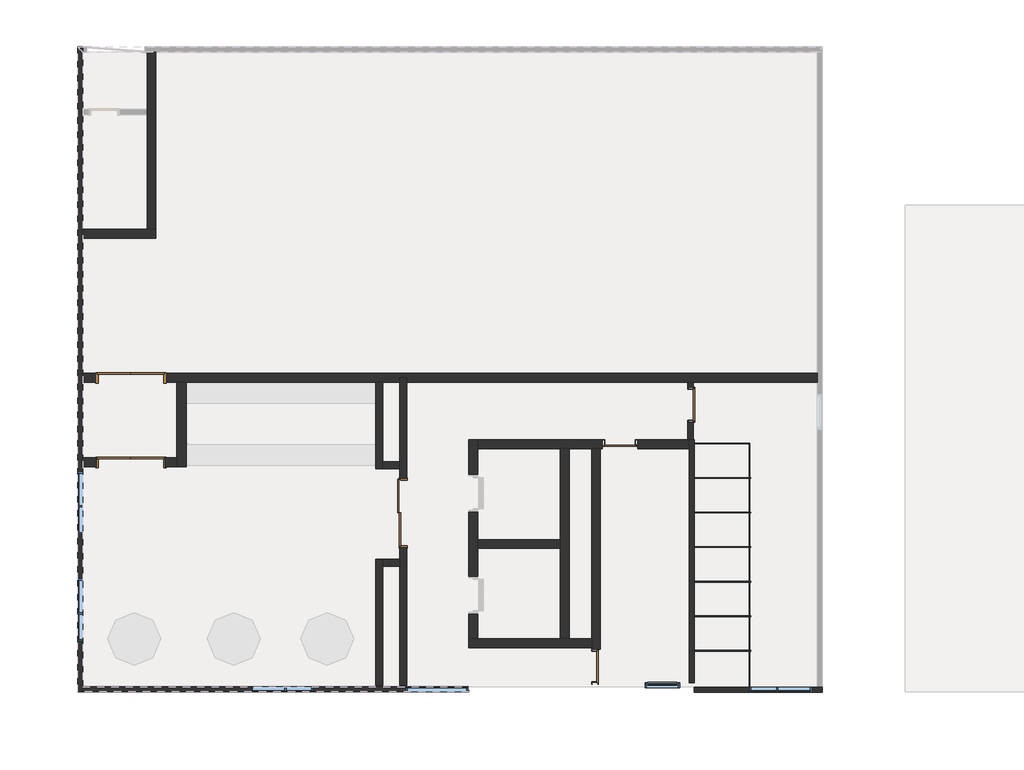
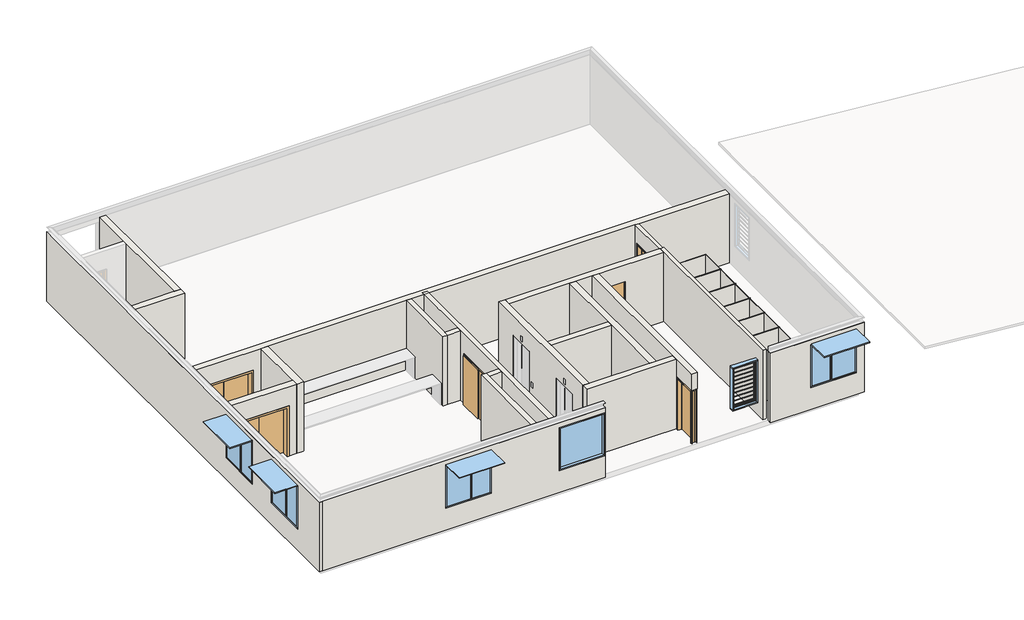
# One storey, part 1 of 2: 29 walls, 6 doors, 6 windows.
"""IFC4 building model written with IfcOpenShell, lengths in millimetres."""

from ifc_helpers import new_model, si_unit, frame, origin, place, context, project, spatial, polyline, outline, extrude, faceted_brep, transform, mapped, element, save
from components import swing_double_metal_frame_double_2040_x_970x2_2b0cb67a, swing_double_metal_frame_double_2040_x_970x2_da7648d6, swing_metal_frame_single_dor_f6efc24d, swing_metal_frame_single_dor_3a6922c5, window_bottom_hung_window_bottom_hung_09912109, window_bottom_hung_window_bottom_hung_36dcd069, window_fixed_1800mm_wide_217cd763, window_louvre_window_louvre_92f3ddc7

model = new_model("IFC4")

# Units and contexts
model_context = context("Model", 3, world=origin())
ifc_project = project(units=[si_unit("LENGTHUNIT", "METRE", prefix="MILLI")], contexts=[model_context])

# Site, building, storey
site = spatial("IfcSite", under=ifc_project)
building = spatial("IfcBuilding", under=site)
storey = spatial("IfcBuildingStorey", under=building, Name="5階", Elevation=42300.0)

# Doors
placement = place(None, origin())
swing_double_metal_frame_double_2040_x_970x2_shape = swing_double_metal_frame_double_2040_x_970x2_2b0cb67a(model_context)
element("IfcDoor", 1, ObjectType="Swing_Double : Metal Frame Double - 2040 x 970x2", at=placement, inside=storey, context=model_context, shape_type="MappedRepresentation", body=[
    mapped(swing_double_metal_frame_double_2040_x_970x2_shape, transform((4123.6057353, 6685.0, 42300.0), x_axis=(1.0, 0.0, 0.0), y_axis=(0.0, 1.0, 0.0), z_axis=(0.0, 0.0, 1.0))),
])
element("IfcDoor", 2, ObjectType="Swing_Double : Metal Frame Double - 2040 x 970x2", at=placement, inside=storey, context=model_context, shape_type="MappedRepresentation", body=[
    mapped(swing_double_metal_frame_double_2040_x_970x2_shape, transform((4123.6057353, 9131.2680774, 42300.0), x_axis=(1.0, 0.0, 0.0), y_axis=(0.0, 1.0, 0.0), z_axis=(0.0, 0.0, 1.0))),
])
swing_double_metal_frame_double_2040_x_970x2_2_shape = swing_double_metal_frame_double_2040_x_970x2_da7648d6(model_context)
element("IfcDoor", 3, ObjectType="Swing_Double : Metal Frame Double - 2040 x 970x2", at=placement, inside=storey, context=model_context, shape_type="MappedRepresentation", body=[
    mapped(swing_double_metal_frame_double_2040_x_970x2_2_shape, transform((11794.6062665, 5007.7678956, 42300.0), x_axis=(0.0, -1.0, 0.0), y_axis=(1.0, 0.0, 0.0), z_axis=(0.0, 0.0, 1.0))),
])
swing_metal_frame_single_dor_shape = swing_metal_frame_single_dor_f6efc24d(model_context)
element("IfcDoor", 4, ObjectType="Swing_Metal Frame_Single_DOR : 2140h x 920 (2210x1010 BLK)", at=placement, inside=storey, context=model_context, shape_type="MappedRepresentation", body=[
    mapped(swing_metal_frame_single_dor_shape, transform((17369.6062665, 770.0, 42300.0), x_axis=(0.0, 1.0, 0.0), y_axis=(-1.0, 0.0, 0.0), z_axis=(0.0, 0.0, 1.0))),
])
element("IfcDoor", 5, ObjectType="Swing_Metal Frame_Single_DOR : 2140h x 920 (2210x1010 BLK)", at=placement, inside=storey, context=model_context, shape_type="MappedRepresentation", body=[
    mapped(swing_metal_frame_single_dor_shape, transform((18069.6062665, 7210.0, 42300.0), x_axis=(1.0, 0.0, 0.0), y_axis=(0.0, 1.0, 0.0), z_axis=(0.0, 0.0, 1.0))),
])
swing_metal_frame_single_dor_2_shape = swing_metal_frame_single_dor_3a6922c5(model_context)
element("IfcDoor", 6, ObjectType="Swing_Metal Frame_Single_DOR : 2140h x 920 (2210x1010 BLK)", at=placement, inside=storey, context=model_context, shape_type="MappedRepresentation", body=[
    mapped(swing_metal_frame_single_dor_2_shape, transform((20109.6062665, 8351.2680774, 42300.0), x_axis=(0.0, -1.0, 0.0), y_axis=(1.0, 0.0, 0.0), z_axis=(0.0, 0.0, 1.0))),
])

# Walls
element("IfcWall", 7, ObjectType="Whte Paint Finish", at=placement, inside=storey, context=model_context, shape_type="Brep", body=[
    faceted_brep([(20221.1062665, 309.0898177, 42300.0), (20221.1062665, 1221.0, 42300.0), (20221.1062665, 1239.0, 42300.0), (20221.1062665, 2221.0, 42300.0), (20221.1062665, 2239.0, 42300.0), (20221.1062665, 3221.0, 42300.0), (20221.1062665, 3239.0, 42300.0), (20221.1062665, 4221.0, 42300.0), (20221.1062665, 4239.0, 42300.0), (20221.1062665, 5221.0, 42300.0), (20221.1062665, 5239.0, 42300.0), (20221.1062665, 6221.0, 42300.0), (20221.1062665, 6239.0, 42300.0), (20221.1062665, 7335.0, 42300.0), (20221.1062665, 7335.0, 45200.0), (20221.1062665, 309.0898177, 45200.0), (20071.1062665, 309.0898177, 42300.0), (20071.1062665, 309.0898177, 45200.0), (20071.1062665, 7085.0, 45200.0), (20071.1062665, 7335.0, 45200.0), (20071.1062665, 7335.0, 42300.0), (20071.1062665, 7085.0, 42300.0), (20184.6062665, 7335.0, 42300.0), (20184.6062665, 7335.0, 45200.0)], [[[0, 1, 2, 3, 4, 5, 6, 7, 8, 9, 10, 11, 12, 13, 14, 15]], [[16, 17, 18, 19, 20, 21]], [[13, 12, 11, 10, 9, 8, 7, 6, 5, 4, 3, 2, 1, 0, 16, 21, 20, 22]], [[15, 14, 23, 19, 18, 17]], [[13, 22, 20, 19, 23, 14]], [[0, 15, 17, 16]]]),
])
element("IfcWall", 8, ObjectType="Whte Paint Finish", at=placement, inside=storey, context=model_context, shape_type="Brep", body=[
    faceted_brep([(20184.6062665, 8996.2680774, 45200.0), (20184.6062665, 7335.0, 45200.0), (20184.6062665, 7335.0, 42300.0), (20184.6062665, 7841.2680774, 42300.0), (20184.6062665, 7841.2680774, 44510.0), (20184.6062665, 8861.2680774, 44510.0), (20184.6062665, 8861.2680774, 42300.0), (20184.6062665, 8996.2680774, 42300.0), (20034.6062665, 7335.0, 45200.0), (20034.6062665, 8996.2680774, 45200.0), (20034.6062665, 8996.2680774, 42300.0), (20034.6062665, 8861.2680774, 42300.0), (20034.6062665, 8861.2680774, 44510.0), (20034.6062665, 7841.2680774, 44510.0), (20034.6062665, 7841.2680774, 42300.0), (20034.6062665, 7335.0, 42300.0), (20071.1062665, 7335.0, 42300.0), (20071.1062665, 7335.0, 45200.0)], [[[0, 1, 2, 3, 4, 5, 6, 7]], [[8, 9, 10, 11, 12, 13, 14, 15]], [[10, 7, 6, 11]], [[2, 16, 15, 14, 3]], [[1, 0, 9, 8, 17]], [[15, 16, 2, 1, 17, 8]], [[0, 7, 10, 9]], [[13, 4, 3, 14]], [[4, 13, 12, 5]], [[5, 12, 11, 6]]]),
])
element("IfcWall", 9, ObjectType="Brickwork_Double_270mm", at=placement, inside=storey, context=model_context, shape_type="Brep", body=[
    faceted_brep([(2519.6057353, 8996.2680774, 42300.0), (2912.1057353, 8996.2680774, 42300.0), (2912.1057353, 8996.2680774, 44390.0), (4912.1057353, 8996.2680774, 44390.0), (4912.1057353, 8996.2680774, 42300.0), (5244.6057353, 8996.2680774, 42300.0), (5514.6057353, 8996.2680774, 42300.0), (20034.6062665, 8996.2680774, 42300.0), (20184.6062665, 8996.2680774, 42300.0), (23773.6171203, 8996.2680774, 42300.0), (23773.6171203, 8996.2680774, 45200.0), (20184.6062665, 8996.2680774, 45200.0), (20034.6062665, 8996.2680774, 45200.0), (5514.6057353, 8996.2680774, 45200.0), (5244.6057353, 8996.2680774, 45200.0), (2519.6057353, 8996.2680774, 45200.0), (2912.1057353, 9266.2680774, 44390.0), (2912.1057353, 9266.2680774, 42300.0), (2519.6057353, 9266.2680774, 42300.0), (2519.6057353, 9266.2680774, 45200.0), (23773.6171203, 9266.2680774, 45200.0), (23773.6171203, 9266.2680774, 42300.0), (4912.1057353, 9266.2680774, 42300.0), (4912.1057353, 9266.2680774, 44390.0)], [[[0, 1, 2, 3, 4, 5, 6, 7, 8, 9, 10, 11, 12, 13, 14, 15]], [[16, 17, 18, 19, 20, 21, 22, 23]], [[22, 21, 9, 8, 7, 6, 5, 4]], [[18, 17, 1, 0]], [[15, 14, 13, 12, 11, 10, 20, 19]], [[10, 9, 21, 20]], [[0, 15, 19, 18]], [[2, 1, 17, 16]], [[3, 2, 16, 23]], [[4, 3, 23, 22]]]),
])
element("IfcWall", 10, ObjectType="Whte Paint Finish", at=placement, inside=storey, context=model_context, shape_type="SweptSolid", body=[
    extrude(outline(polyline([(42300.0, 2519.6057353), (42300.0, 13694.6062665), (45200.0, 13694.6062665), (45200.0, 2519.6057353), (42300.0, 2519.6057353)]), holes=[polyline([(43200.0, 11869.6062665), (45000.0, 11869.6062665), (45000.0, 13669.6062665), (43200.0, 13669.6062665), (43200.0, 11869.6062665)]), polyline([(43200.0, 9189.6062665), (43200.0, 7389.6062665), (45000.0, 7389.6062665), (45000.0, 9189.6062665), (43200.0, 9189.6062665)])]), frame((0.0, 39.0898177, 0.0), z_axis=(0.0, 1.0, 0.0), x_axis=(0.0, 0.0, 1.0)), (0.0, 0.0, 1.0), 150.0),
])
element("IfcWall", 11, ObjectType="Whte Paint Finish", at=placement, inside=storey, context=model_context, shape_type="Brep", body=[
    faceted_brep([(2519.6057353, 39.0898177, 45200.0), (2519.6057353, 189.0898177, 45200.0), (2519.6057353, 6550.0, 45200.0), (2519.6057353, 6820.0, 45200.0), (2519.6057353, 8996.2680774, 45200.0), (2519.6057353, 9266.2680774, 45200.0), (2519.6057353, 13164.7819979, 45200.0), (2519.6057353, 13434.7819979, 45200.0), (2519.6057353, 16749.7819979, 45200.0), (2519.6057353, 16899.7819979, 45200.0), (2519.6057353, 18560.0, 45200.0), (2519.6057353, 18710.0, 45200.0), (2369.6057353, 18710.0, 45200.0), (2369.6057353, 39.0898177, 45200.0), (2519.6057353, 39.0898177, 42300.0), (2519.6057353, 189.0898177, 42300.0), (2519.6057353, 6550.0, 42300.0), (2519.6057353, 6820.0, 42300.0), (2519.6057353, 8996.2680774, 42300.0), (2519.6057353, 9266.2680774, 42300.0), (2519.6057353, 13164.7819979, 42300.0), (2519.6057353, 13434.7819979, 42300.0), (2519.6057353, 16749.7819979, 42300.0), (2519.6057353, 16899.7819979, 42300.0), (2519.6057353, 18560.0, 42300.0), (2519.6057353, 18710.0, 42300.0), (2519.6057353, 1514.0898177, 43200.0), (2519.6057353, 1514.0898177, 45000.0), (2519.6057353, 3314.0898177, 45000.0), (2519.6057353, 3314.0898177, 43200.0), (2519.6057353, 4614.0898177, 43200.0), (2519.6057353, 4614.0898177, 45000.0), (2519.6057353, 6414.0898177, 45000.0), (2519.6057353, 6414.0898177, 43200.0), (2369.6057353, 39.0898177, 42300.0), (2369.6057353, 18710.0, 42300.0), (2369.6057353, 1514.0898177, 43200.0), (2369.6057353, 3314.0898177, 43200.0), (2369.6057353, 3314.0898177, 45000.0), (2369.6057353, 1514.0898177, 45000.0), (2369.6057353, 4614.0898177, 43200.0), (2369.6057353, 6414.0898177, 43200.0), (2369.6057353, 6414.0898177, 45000.0), (2369.6057353, 4614.0898177, 45000.0)], [[[0, 1, 2, 3, 4, 5, 6, 7, 8, 9, 10, 11, 12, 13]], [[14, 15, 16, 17, 18, 19, 20, 21, 22, 23, 24, 25, 11, 10, 9, 8, 7, 6, 5, 4, 3, 2, 1, 0], [26, 27, 28, 29], [30, 31, 32, 33]], [[34, 13, 12, 35], [36, 37, 38, 39], [40, 41, 42, 43]], [[25, 24, 23, 22, 21, 20, 19, 18, 17, 16, 15, 14, 34, 35]], [[14, 0, 13, 34]], [[11, 25, 35, 12]], [[27, 26, 36, 39]], [[28, 27, 39, 38]], [[29, 28, 38, 37]], [[26, 29, 37, 36]], [[31, 30, 40, 43]], [[32, 31, 43, 42]], [[33, 32, 42, 41]], [[30, 33, 41, 40]]]),
])
element("IfcWall", 12, ObjectType="Whte Paint Finish", at=placement, inside=storey, context=model_context, shape_type="Brep", body=[
    faceted_brep([(20219.6062665, 30.0, 45200.0), (23923.6171203, 30.0, 45200.0), (23923.6171203, 180.0, 45200.0), (23773.6171203, 180.0, 45200.0), (20219.6062665, 180.0, 45200.0), (20219.6062665, 30.0, 42300.0), (23923.6171203, 30.0, 42300.0), (21819.6062665, 30.0, 43200.0), (21819.6062665, 30.0, 45000.0), (23619.6062665, 30.0, 45000.0), (23619.6062665, 30.0, 43200.0), (20219.6062665, 180.0, 42300.0), (23923.6171203, 180.0, 42300.0), (23773.6171203, 180.0, 42300.0), (21828.6062665, 180.0, 42300.0), (21810.6062665, 180.0, 42300.0), (21819.6062665, 180.0, 43200.0), (23619.6062665, 180.0, 43200.0), (23619.6062665, 180.0, 45000.0), (21819.6062665, 180.0, 45000.0)], [[[0, 1, 2, 3, 4]], [[5, 6, 1, 0], [7, 8, 9, 10]], [[11, 4, 3, 2, 12, 13, 14, 15], [16, 17, 18, 19]], [[6, 5, 11, 15, 14, 13, 12]], [[5, 0, 4, 11]], [[1, 6, 12, 2]], [[7, 10, 17, 16]], [[10, 9, 18, 17]], [[9, 8, 19, 18]], [[8, 7, 16, 19]]]),
])
element("IfcWall", 13, ObjectType="Brickwork_Double_270mm", at=placement, inside=storey, context=model_context, shape_type="Brep", body=[
    faceted_brep([(5244.6057353, 8996.2680774, 42300.0), (5244.6057353, 6820.0, 42300.0), (5244.6057353, 6550.0, 42300.0), (5244.6057353, 6550.0, 45200.0), (5244.6057353, 6820.0, 45200.0), (5244.6057353, 8996.2680774, 45200.0), (5514.6057353, 8996.2680774, 42300.0), (5514.6057353, 8996.2680774, 45200.0), (5514.6057353, 6550.0, 45200.0), (5514.6057353, 6550.0, 42300.0)], [[[0, 1, 2, 3, 4, 5]], [[6, 7, 8, 9]], [[2, 1, 0, 6, 9]], [[5, 4, 3, 8, 7]], [[0, 5, 7, 6]], [[3, 2, 9, 8]]]),
])
element("IfcWall", 14, ObjectType="Brickwork_Double_270mm", at=placement, inside=storey, context=model_context, shape_type="SweptSolid", body=[
    extrude(outline(polyline([(42300.0, 2519.6057353), (42300.0, 2912.1057353), (44390.0, 2912.1057353), (44390.0, 4912.1057353), (42300.0, 4912.1057353), (42300.0, 5244.6057353), (45200.0, 5244.6057353), (45200.0, 2519.6057353), (42300.0, 2519.6057353)])), frame((0.0, 6550.0, 0.0), z_axis=(0.0, 1.0, 0.0), x_axis=(0.0, 0.0, 1.0)), (0.0, 0.0, 1.0), 270.0),
])
element("IfcWall", 15, ObjectType="Brickwork_Double_270mm", at=placement, inside=storey, context=model_context, shape_type="Brep", body=[
    faceted_brep([(2519.6057353, 13164.7819979, 42300.0), (4634.6057353, 13164.7819979, 42300.0), (4634.6057353, 13164.7819979, 45200.0), (2519.6057353, 13164.7819979, 45200.0), (2519.6057353, 13434.7819979, 42300.0), (2519.6057353, 13434.7819979, 45200.0), (4384.6057353, 13434.7819979, 45200.0), (4634.6057353, 13434.7819979, 45200.0), (4634.6057353, 13434.7819979, 42300.0), (4384.6057353, 13434.7819979, 42300.0)], [[[0, 1, 2, 3]], [[4, 5, 6, 7, 8, 9]], [[1, 0, 4, 9, 8]], [[3, 2, 7, 6, 5]], [[2, 1, 8, 7]], [[0, 3, 5, 4]]]),
])
element("IfcWall", 16, ObjectType="A2 - Acoustic Type 2", at=placement, inside=storey, context=model_context, shape_type="SweptSolid", body=[
    extrude(outline(polyline([(4634.6057353, 18560.0), (4634.6057353, 13434.7819979), (4384.6057353, 13434.7819979), (4384.6057353, 18560.0), (4634.6057353, 18560.0)])), frame((0.0, 0.0, 42300.0), z_axis=(0.0, 0.0, 1.0), x_axis=(1.0, 0.0, 0.0)), (0.0, 0.0, 1.0), 2900.0),
])
element("IfcWall", 17, ObjectType="C1 - Concrete Type 2", at=placement, inside=storey, context=model_context, shape_type="SweptSolid", body=[
    extrude(outline(polyline([(11694.6062665, 6497.0008144), (11194.6062665, 6497.0008144), (11194.6062665, 6697.0008144), (11694.6062665, 6697.0008144), (11694.6062665, 6497.0008144)])), frame((0.0, 0.0, 42300.0), z_axis=(0.0, 0.0, 1.0), x_axis=(1.0, 0.0, 0.0)), (0.0, 0.0, 1.0), 2900.0),
])
element("IfcWall", 18, ObjectType="C1 - Concrete Type 2", at=placement, inside=storey, context=model_context, shape_type="Brep", body=[
    faceted_brep([(11194.6062665, 6497.0008144, 42300.0), (11194.6062665, 6697.0008144, 42300.0), (11194.6062665, 8997.0008144, 42300.0), (11194.6062665, 8997.0008144, 45200.0), (11194.6062665, 6697.0008144, 45200.0), (11194.6062665, 6497.0008144, 45200.0), (10994.6062665, 6497.0008144, 42300.0), (10994.6062665, 6497.0008144, 45200.0), (10994.6062665, 8997.0008144, 45200.0), (10994.6062665, 8997.0008144, 42300.0)], [[[0, 1, 2, 3, 4, 5]], [[6, 7, 8, 9]], [[2, 1, 0, 6, 9]], [[3, 2, 9, 8]], [[5, 4, 3, 8, 7]], [[0, 5, 7, 6]]]),
])
element("IfcWall", 19, ObjectType="C1 - Concrete Type 2", at=placement, inside=storey, context=model_context, shape_type="SweptSolid", body=[
    extrude(outline(polyline([(11694.6062665, 3673.0), (11194.6062665, 3673.0), (11194.6062665, 3873.0), (11694.6062665, 3873.0), (11694.6062665, 3673.0)])), frame((0.0, 0.0, 42300.0), z_axis=(0.0, 0.0, 1.0), x_axis=(1.0, 0.0, 0.0)), (0.0, 0.0, 1.0), 2900.0),
])
element("IfcWall", 20, ObjectType="C1 - Concrete Type 2", at=placement, inside=storey, context=model_context, shape_type="Brep", body=[
    faceted_brep([(11194.6062665, 235.0, 42300.0), (11194.6062665, 3673.0, 42300.0), (11194.6062665, 3873.0, 42300.0), (11194.6062665, 3873.0, 45200.0), (11194.6062665, 3673.0, 45200.0), (11194.6062665, 235.0, 45200.0), (10994.6062665, 235.0, 42300.0), (10994.6062665, 235.0, 45200.0), (10994.6062665, 3873.0, 45200.0), (10994.6062665, 3873.0, 42300.0)], [[[0, 1, 2, 3, 4, 5]], [[6, 7, 8, 9]], [[2, 1, 0, 6, 9]], [[3, 2, 9, 8]], [[5, 4, 3, 8, 7]], [[0, 5, 7, 6]]]),
])
element("IfcWall", 21, ObjectType="C1 - Concrete Type 2", at=placement, inside=storey, context=model_context, shape_type="Brep", body=[
    faceted_brep([(11894.6062665, 9131.2680774, 42300.0), (11894.6062665, 9131.2680774, 45200.0), (11894.6062665, 235.0, 45200.0), (11894.6062665, 235.0, 42300.0), (11894.6062665, 4219.2678956, 42300.0), (11894.6062665, 4219.2678956, 44390.0), (11894.6062665, 6219.2678956, 44390.0), (11894.6062665, 6219.2678956, 42300.0), (11694.6062665, 9131.2680774, 45200.0), (11694.6062665, 9131.2680774, 42300.0), (11694.6062665, 6697.0008144, 42300.0), (11694.6062665, 6497.0008144, 42300.0), (11694.6062665, 6219.2678956, 42300.0), (11694.6062665, 6219.2678956, 44390.0), (11694.6062665, 4219.2678956, 44390.0), (11694.6062665, 4219.2678956, 42300.0), (11694.6062665, 3873.0, 42300.0), (11694.6062665, 3673.0, 42300.0), (11694.6062665, 235.0, 42300.0), (11694.6062665, 235.0, 45200.0), (11694.6062665, 3673.0, 45200.0), (11694.6062665, 3873.0, 45200.0), (11694.6062665, 6497.0008144, 45200.0), (11694.6062665, 6697.0008144, 45200.0)], [[[0, 1, 2, 3, 4, 5, 6, 7]], [[8, 9, 10, 11, 12, 13, 14, 15, 16, 17, 18, 19, 20, 21, 22, 23]], [[9, 0, 7, 12, 11, 10]], [[3, 18, 17, 16, 15, 4]], [[1, 0, 9, 8]], [[2, 1, 8, 23, 22, 21, 20, 19]], [[3, 2, 19, 18]], [[6, 13, 12, 7]], [[13, 6, 5, 14]], [[14, 5, 4, 15]]]),
])
element("IfcWall", 22, ObjectType="C1 - Concrete Type 3 - 250mm", at=placement, inside=storey, context=model_context, shape_type="Brep", body=[
    faceted_brep([(13694.6062665, 1325.0, 42300.0), (17244.6062665, 1325.0, 42300.0), (17244.6062665, 1325.0, 45200.0), (13694.6062665, 1325.0, 45200.0), (13694.6062665, 1575.0, 42300.0), (13694.6062665, 1575.0, 45200.0), (13944.6062665, 1575.0, 45200.0), (16344.6062665, 1575.0, 45200.0), (16594.6062665, 1575.0, 45200.0), (17244.6062665, 1575.0, 45200.0), (17244.6062665, 1575.0, 42300.0), (16594.6062665, 1575.0, 42300.0), (16344.6062665, 1575.0, 42300.0), (13944.6062665, 1575.0, 42300.0)], [[[0, 1, 2, 3]], [[4, 5, 6, 7, 8, 9, 10, 11, 12, 13]], [[1, 0, 4, 13, 12, 11, 10]], [[3, 2, 9, 8, 7, 6, 5]], [[0, 3, 5, 4]], [[2, 1, 10, 9]]]),
])
element("IfcWall", 23, ObjectType="C1 - Concrete Type 3 - 250mm", at=placement, inside=storey, context=model_context, shape_type="SweptSolid", body=[
    extrude(outline(polyline([(16344.6062665, 4195.0), (13944.6062665, 4195.0), (13944.6062665, 4445.0), (16344.6062665, 4445.0), (16344.6062665, 4195.0)])), frame((0.0, 0.0, 42300.0), z_axis=(0.0, 0.0, 1.0), x_axis=(1.0, 0.0, 0.0)), (0.0, 0.0, 1.0), 2900.0),
])
element("IfcWall", 24, ObjectType="C1 - Concrete Type 3 - 250mm", at=placement, inside=storey, context=model_context, shape_type="Brep", body=[
    faceted_brep([(16594.6062665, 1575.0, 42300.0), (16594.6062665, 7085.0, 42300.0), (16594.6062665, 7085.0, 45200.0), (16594.6062665, 1575.0, 45200.0), (16344.6062665, 1575.0, 42300.0), (16344.6062665, 1575.0, 45200.0), (16344.6062665, 4195.0, 45200.0), (16344.6062665, 4445.0, 45200.0), (16344.6062665, 7085.0, 45200.0), (16344.6062665, 7085.0, 42300.0), (16344.6062665, 4445.0, 42300.0), (16344.6062665, 4195.0, 42300.0)], [[[0, 1, 2, 3]], [[4, 5, 6, 7, 8, 9, 10, 11]], [[1, 0, 4, 11, 10, 9]], [[3, 2, 8, 7, 6, 5]], [[2, 1, 9, 8]], [[0, 3, 5, 4]]]),
])
element("IfcWall", 25, ObjectType="C1 - Concrete Type 3 - 250mm", at=placement, inside=storey, context=model_context, shape_type="Brep", body=[
    faceted_brep([(13944.6062665, 7335.0, 45200.0), (13944.6062665, 7085.0, 45200.0), (13944.6062665, 4445.0, 45200.0), (13944.6062665, 4195.0, 45200.0), (13944.6062665, 1575.0, 45200.0), (13944.6062665, 1575.0, 42300.0), (13944.6062665, 2295.0, 42300.0), (13944.6062665, 2295.0, 44400.0), (13944.6062665, 3395.0, 44400.0), (13944.6062665, 3395.0, 42300.0), (13944.6062665, 4195.0, 42300.0), (13944.6062665, 4445.0, 42300.0), (13944.6062665, 5245.0, 42300.0), (13944.6062665, 5245.0, 44400.0), (13944.6062665, 6345.0, 44400.0), (13944.6062665, 6345.0, 42300.0), (13944.6062665, 7085.0, 42300.0), (13944.6062665, 7335.0, 42300.0), (13694.6062665, 1575.0, 45200.0), (13694.6062665, 7335.0, 45200.0), (13694.6062665, 7335.0, 42300.0), (13694.6062665, 6345.0, 42300.0), (13694.6062665, 6345.0, 44400.0), (13694.6062665, 5245.0, 44400.0), (13694.6062665, 5245.0, 42300.0), (13694.6062665, 3395.0, 42300.0), (13694.6062665, 3395.0, 44400.0), (13694.6062665, 2295.0, 44400.0), (13694.6062665, 2295.0, 42300.0), (13694.6062665, 1575.0, 42300.0), (13694.6062665, 2165.0, 43000.0), (13694.6062665, 2165.0, 43200.0), (13694.6062665, 2065.0, 43200.0), (13694.6062665, 2065.0, 43000.0), (13694.6062665, 2895.0, 44500.0), (13694.6062665, 2895.0, 44700.0), (13694.6062665, 2795.0, 44700.0), (13694.6062665, 2795.0, 44500.0), (13694.6062665, 5115.0, 43000.0), (13694.6062665, 5115.0, 43200.0), (13694.6062665, 5015.0, 43200.0), (13694.6062665, 5015.0, 43000.0), (13694.6062665, 5845.0, 44500.0), (13694.6062665, 5845.0, 44700.0), (13694.6062665, 5745.0, 44700.0), (13694.6062665, 5745.0, 44500.0), (13714.6062665, 2165.0, 43000.0), (13714.6062665, 2065.0, 43000.0), (13714.6062665, 2065.0, 43200.0), (13714.6062665, 2165.0, 43200.0), (13714.6062665, 2895.0, 44500.0), (13714.6062665, 2795.0, 44500.0), (13714.6062665, 2795.0, 44700.0), (13714.6062665, 2895.0, 44700.0), (13714.6062665, 5115.0, 43000.0), (13714.6062665, 5015.0, 43000.0), (13714.6062665, 5015.0, 43200.0), (13714.6062665, 5115.0, 43200.0), (13714.6062665, 5845.0, 44500.0), (13714.6062665, 5745.0, 44500.0), (13714.6062665, 5745.0, 44700.0), (13714.6062665, 5845.0, 44700.0)], [[[0, 1, 2, 3, 4, 5, 6, 7, 8, 9, 10, 11, 12, 13, 14, 15, 16, 17]], [[18, 19, 20, 21, 22, 23, 24, 25, 26, 27, 28, 29], [30, 31, 32, 33], [34, 35, 36, 37], [38, 39, 40, 41], [42, 43, 44, 45]], [[6, 5, 29, 28]], [[9, 25, 24, 12, 11, 10]], [[20, 17, 16, 15, 21]], [[4, 3, 2, 1, 0, 19, 18]], [[27, 7, 6, 28]], [[8, 26, 25, 9]], [[7, 27, 26, 8]], [[46, 47, 48, 49]], [[46, 49, 31, 30]], [[49, 48, 32, 31]], [[48, 47, 33, 32]], [[47, 46, 30, 33]], [[50, 51, 52, 53]], [[50, 53, 35, 34]], [[53, 52, 36, 35]], [[52, 51, 37, 36]], [[51, 50, 34, 37]], [[23, 13, 12, 24]], [[14, 22, 21, 15]], [[13, 23, 22, 14]], [[54, 55, 56, 57]], [[54, 57, 39, 38]], [[57, 56, 40, 39]], [[56, 55, 41, 40]], [[55, 54, 38, 41]], [[58, 59, 60, 61]], [[58, 61, 43, 42]], [[61, 60, 44, 43]], [[60, 59, 45, 44]], [[59, 58, 42, 45]], [[0, 17, 20, 19]], [[5, 4, 18, 29]]]),
])
element("IfcWall", 26, ObjectType="C1 - Concrete Type 3 - 250mm", at=placement, inside=storey, context=model_context, shape_type="Brep", body=[
    faceted_brep([(17494.6062665, 7085.0, 45200.0), (17494.6062665, 309.0898177, 45200.0), (17494.6062665, 309.0898177, 44510.0), (17494.6062665, 1280.0, 44510.0), (17494.6062665, 1280.0, 42300.0), (17494.6062665, 7085.0, 42300.0), (17244.6062665, 309.0898177, 45200.0), (17244.6062665, 1325.0, 45200.0), (17244.6062665, 1575.0, 45200.0), (17244.6062665, 7085.0, 45200.0), (17244.6062665, 7085.0, 42300.0), (17244.6062665, 1575.0, 42300.0), (17244.6062665, 1325.0, 42300.0), (17244.6062665, 1280.0, 42300.0), (17244.6062665, 1280.0, 44510.0), (17244.6062665, 309.0898177, 44510.0)], [[[0, 1, 2, 3, 4, 5]], [[6, 7, 8, 9, 10, 11, 12, 13, 14, 15]], [[10, 5, 4, 13, 12, 11]], [[1, 0, 9, 8, 7, 6]], [[3, 14, 13, 4]], [[14, 3, 2, 15]], [[0, 5, 10, 9]], [[1, 6, 15, 2]]]),
])
element("IfcWall", 27, ObjectType="C1 - Concrete Type 3 - 250mm", at=placement, inside=storey, context=model_context, shape_type="Brep", body=[
    faceted_brep([(20071.1062665, 7085.0, 45200.0), (17494.6062665, 7085.0, 45200.0), (17244.6062665, 7085.0, 45200.0), (16594.6062665, 7085.0, 45200.0), (16344.6062665, 7085.0, 45200.0), (13944.6062665, 7085.0, 45200.0), (13944.6062665, 7085.0, 42300.0), (16344.6062665, 7085.0, 42300.0), (16594.6062665, 7085.0, 42300.0), (17244.6062665, 7085.0, 42300.0), (17494.6062665, 7085.0, 42300.0), (17559.6062665, 7085.0, 42300.0), (17559.6062665, 7085.0, 44510.0), (18579.6062665, 7085.0, 44510.0), (18579.6062665, 7085.0, 42300.0), (20071.1062665, 7085.0, 42300.0), (13944.6062665, 7335.0, 45200.0), (20034.6062665, 7335.0, 45200.0), (20071.1062665, 7335.0, 45200.0), (20071.1062665, 7335.0, 42300.0), (20034.6062665, 7335.0, 42300.0), (18579.6062665, 7335.0, 42300.0), (18579.6062665, 7335.0, 44510.0), (17559.6062665, 7335.0, 44510.0), (17559.6062665, 7335.0, 42300.0), (13944.6062665, 7335.0, 42300.0)], [[[0, 1, 2, 3, 4, 5, 6, 7, 8, 9, 10, 11, 12, 13, 14, 15]], [[16, 17, 18, 19, 20, 21, 22, 23, 24, 25]], [[6, 25, 24, 11, 10, 9, 8, 7]], [[19, 15, 14, 21, 20]], [[5, 4, 3, 2, 1, 0, 18, 17, 16]], [[13, 22, 21, 14]], [[22, 13, 12, 23]], [[23, 12, 11, 24]], [[6, 5, 16, 25]], [[15, 19, 18, 0]]]),
])
element("IfcWall", 28, ObjectType="Toilet Partition_18mm", at=placement, inside=storey, context=model_context, shape_type="SweptSolid", body=[
    extrude(outline(polyline([(21846.1062665, 6221.0), (20221.1062665, 6221.0), (20221.1062665, 6239.0), (21846.1062665, 6239.0), (21846.1062665, 6221.0)])), frame((0.0, 0.0, 42300.0), z_axis=(0.0, 0.0, 1.0), x_axis=(1.0, 0.0, 0.0)), (0.0, 0.0, 1.0), 2100.0),
])
element("IfcWall", 29, ObjectType="Toilet Partition_18mm", at=placement, inside=storey, context=model_context, shape_type="SweptSolid", body=[
    extrude(outline(polyline([(21846.1062665, 5221.0), (20221.1062665, 5221.0), (20221.1062665, 5239.0), (21846.1062665, 5239.0), (21846.1062665, 5221.0)])), frame((0.0, 0.0, 42300.0), z_axis=(0.0, 0.0, 1.0), x_axis=(1.0, 0.0, 0.0)), (0.0, 0.0, 1.0), 2100.0),
])
element("IfcWall", 30, ObjectType="Toilet Partition_18mm", at=placement, inside=storey, context=model_context, shape_type="SweptSolid", body=[
    extrude(outline(polyline([(21846.1062665, 4221.0), (20221.1062665, 4221.0), (20221.1062665, 4239.0), (21846.1062665, 4239.0), (21846.1062665, 4221.0)])), frame((0.0, 0.0, 42300.0), z_axis=(0.0, 0.0, 1.0), x_axis=(1.0, 0.0, 0.0)), (0.0, 0.0, 1.0), 2100.0),
])
element("IfcWall", 31, ObjectType="Toilet Partition_18mm", at=placement, inside=storey, context=model_context, shape_type="SweptSolid", body=[
    extrude(outline(polyline([(21846.1062665, 3221.0), (20221.1062665, 3221.0), (20221.1062665, 3239.0), (21846.1062665, 3239.0), (21846.1062665, 3221.0)])), frame((0.0, 0.0, 42300.0), z_axis=(0.0, 0.0, 1.0), x_axis=(1.0, 0.0, 0.0)), (0.0, 0.0, 1.0), 2100.0),
])
element("IfcWall", 32, ObjectType="Toilet Partition_18mm", at=placement, inside=storey, context=model_context, shape_type="SweptSolid", body=[
    extrude(outline(polyline([(21846.1062665, 2221.0), (20221.1062665, 2221.0), (20221.1062665, 2239.0), (21846.1062665, 2239.0), (21846.1062665, 2221.0)])), frame((0.0, 0.0, 42300.0), z_axis=(0.0, 0.0, 1.0), x_axis=(1.0, 0.0, 0.0)), (0.0, 0.0, 1.0), 2100.0),
])
element("IfcWall", 33, ObjectType="Toilet Partition_18mm", at=placement, inside=storey, context=model_context, shape_type="SweptSolid", body=[
    extrude(outline(polyline([(21846.1062665, 1221.0), (20221.1062665, 1221.0), (20221.1062665, 1239.0), (21846.1062665, 1239.0), (21846.1062665, 1221.0)])), frame((0.0, 0.0, 42300.0), z_axis=(0.0, 0.0, 1.0), x_axis=(1.0, 0.0, 0.0)), (0.0, 0.0, 1.0), 2100.0),
])
element("IfcWall", 34, ObjectType="Toilet Partition_18mm", at=placement, inside=storey, context=model_context, shape_type="SweptSolid", body=[
    extrude(outline(polyline([(21828.6062665, 7221.0), (21828.6062665, 180.0), (21810.6062665, 180.0), (21810.6062665, 7221.0), (21828.6062665, 7221.0)])), frame((0.0, 0.0, 42300.0), z_axis=(0.0, 0.0, 1.0), x_axis=(1.0, 0.0, 0.0)), (0.0, 0.0, 1.0), 2100.0),
])
element("IfcWall", 35, ObjectType="Toilet Partition_18mm", at=placement, inside=storey, context=model_context, shape_type="Brep", body=[
    faceted_brep([(20184.6062665, 7221.0, 42300.0), (21810.6062665, 7221.0, 42300.0), (21828.6062665, 7221.0, 42300.0), (21828.6062665, 7221.0, 44400.0), (21810.6062665, 7221.0, 44400.0), (20184.6062665, 7221.0, 44400.0), (20184.6062665, 7239.0, 42300.0), (20184.6062665, 7239.0, 44400.0), (21828.6062665, 7239.0, 44400.0), (21828.6062665, 7239.0, 42300.0)], [[[0, 1, 2, 3, 4, 5]], [[6, 7, 8, 9]], [[2, 1, 0, 6, 9]], [[5, 4, 3, 8, 7]], [[0, 5, 7, 6]], [[3, 2, 9, 8]]]),
])

# Windows
window_bottom_hung_window_bottom_hung_shape = window_bottom_hung_window_bottom_hung_09912109(model_context)
element("IfcWindow", 36, ObjectType="Window_Bottom Hung : Window_Bottom Hung", at=placement, inside=storey, context=model_context, shape_type="MappedRepresentation", body=[
    mapped(window_bottom_hung_window_bottom_hung_shape, transform((8289.6062665, 114.0898177, 42200.0), x_axis=(-1.0, 0.0, 0.0), y_axis=(0.0, -1.0, 0.0), z_axis=(0.0, 0.0, 1.0))),
])
element("IfcWindow", 37, ObjectType="Window_Bottom Hung : Window_Bottom Hung", at=placement, inside=storey, context=model_context, shape_type="MappedRepresentation", body=[
    mapped(window_bottom_hung_window_bottom_hung_shape, transform((2444.6057353, 2414.0898177, 42200.0), x_axis=(0.0, 1.0, 0.0), y_axis=(-1.0, 0.0, 0.0), z_axis=(0.0, 0.0, 1.0))),
])
element("IfcWindow", 38, ObjectType="Window_Bottom Hung : Window_Bottom Hung", at=placement, inside=storey, context=model_context, shape_type="MappedRepresentation", body=[
    mapped(window_bottom_hung_window_bottom_hung_shape, transform((2444.6057353, 5514.0898177, 42200.0), x_axis=(0.0, 1.0, 0.0), y_axis=(-1.0, 0.0, 0.0), z_axis=(0.0, 0.0, 1.0))),
])
window_bottom_hung_window_bottom_hung_2_shape = window_bottom_hung_window_bottom_hung_36dcd069(model_context)
element("IfcWindow", 39, ObjectType="Window_Bottom Hung : Window_Bottom Hung", at=placement, inside=storey, context=model_context, shape_type="MappedRepresentation", body=[
    mapped(window_bottom_hung_window_bottom_hung_2_shape, transform((22719.6062665, 105.0, 42200.0), x_axis=(1.0, 0.0, 0.0), y_axis=(0.0, 1.0, 0.0), z_axis=(0.0, 0.0, 1.0))),
])
window_fixed_1800mm_wide_shape = window_fixed_1800mm_wide_217cd763(model_context)
element("IfcWindow", 40, ObjectType="Window_Fixed : 1800mm Wide", at=placement, inside=storey, context=model_context, shape_type="MappedRepresentation", body=[
    mapped(window_fixed_1800mm_wide_shape, transform((12769.6062665, 114.0898177, 42950.0), x_axis=(1.0, 0.0, 0.0), y_axis=(0.0, 1.0, 0.0), z_axis=(0.0, 0.0, 1.0))),
])
window_louvre_window_louvre_shape = window_louvre_window_louvre_92f3ddc7(model_context)
element("IfcWindow", 41, ObjectType="Window_Louvre : Window_Louvre", at=placement, inside=storey, context=model_context, shape_type="MappedRepresentation", body=[
    mapped(window_louvre_window_louvre_shape, transform((19294.6062665, 174.0898177, 42600.0), x_axis=(-1.0, 0.0, 0.0), y_axis=(0.0, -1.0, 0.0), z_axis=(0.0, 0.0, 1.0))),
])

save(model, "model.ifc")
